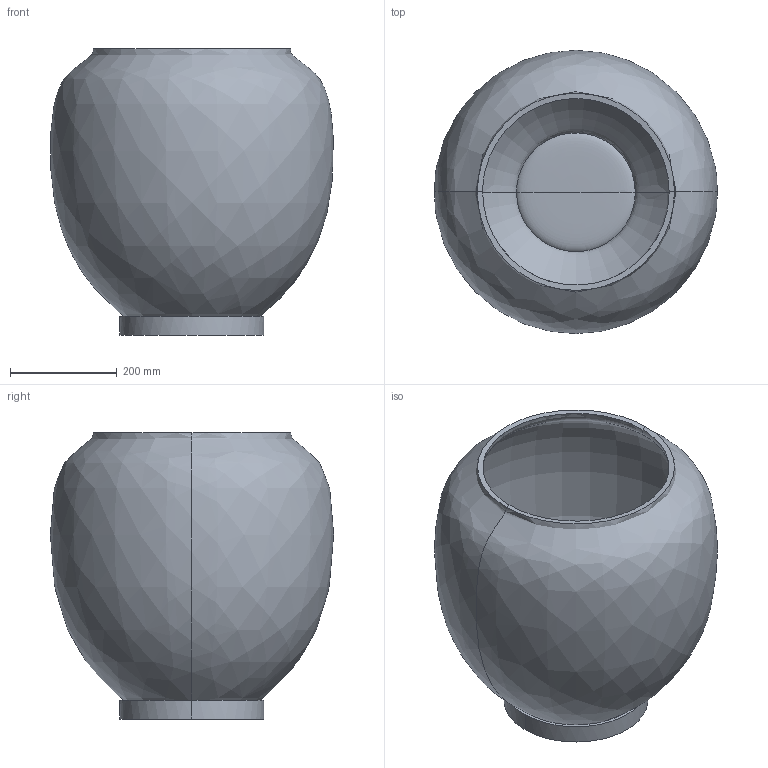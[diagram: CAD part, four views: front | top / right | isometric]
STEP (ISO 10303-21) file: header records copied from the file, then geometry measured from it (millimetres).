
FILE_DESCRIPTION(/* description */ (''),/* implementation_level */ '2;1');
FILE_NAME(/* name */ 'Sunao Vase Big',/* time_stamp */ '2024-05-13T12:43:21+02:00',/* author */ (''),/* organization */ (''),/* preprocessor_version */ 'ST-DEVELOPER v16.5',/* originating_system */ 'Rhino 7.36',/* authorisation */ '');
FILE_SCHEMA (('CONFIG_CONTROL_DESIGN'));
Length unit declared in the file: millimetre
Products named in the file (1): Document
Bounding box: 530.6 x 531.82 x 537.21 mm (x, y, z)
Volume: 9355764.9 mm3; surface area: 1901330 mm2
Topology: 2 solids, 2 shells, 19 faces, 40 edges, 24 vertices
Faces by surface type: bspline 19
Entity records: 10086 total; most frequent: CARTESIAN_POINT 9565, ORIENTED_EDGE 68, PCURVE 68, DEFINITIONAL_REPRESENTATION 68, B_SPLINE_CURVE_WITH_KNOTS 67, SURFACE_CURVE 34, EDGE_CURVE 34, EDGE_LOOP 20
